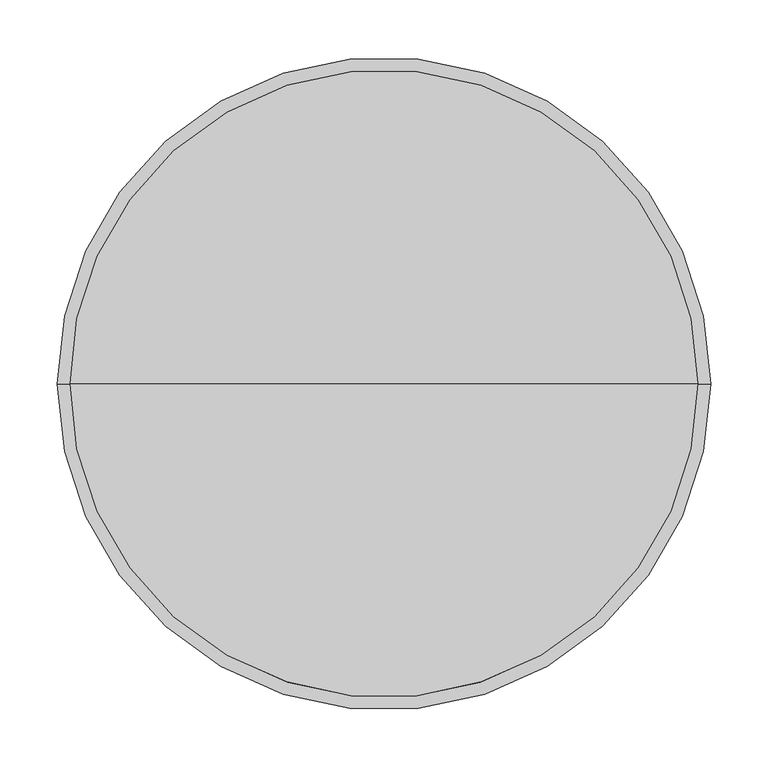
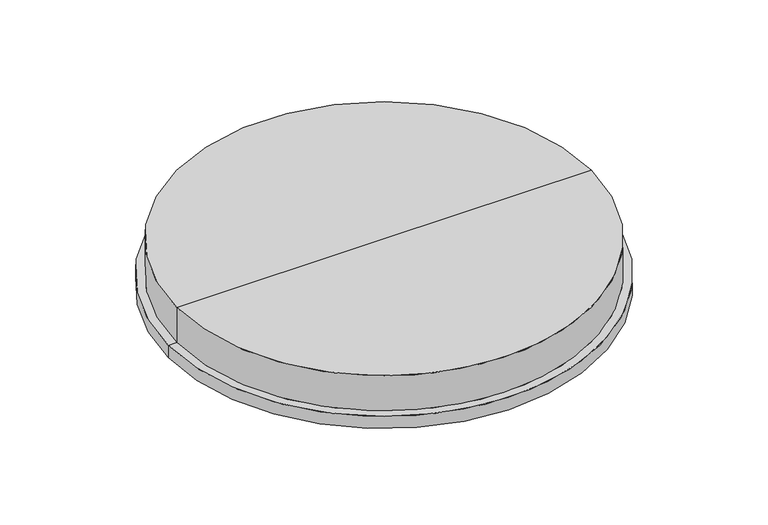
"""IFC4 building model written with IfcOpenShell, lengths in millimetres: valve geometry, Pipelife - Studnia PRO - Dno studni 630 : Dno studni."""

from ifc_helpers import new_model, si_unit, frame, origin, origin_with_axes, place, context, project, spatial, circle_curve, source, transform, mapped, element, save
from ifc_brep_helpers import plane_surface, cylinder_surface, advanced_brep


def valve_392ff049(model_context):
    return source(origin(), model_context, "Body", "AdvancedBrep", [
        advanced_brep(
        [(-284.0, 0.0, 17.0), (284.0, 0.0, 17.0), (284.0, 0.0, 0.0), (-284.0, 0.0, 0.0), (-273.0, 0.0, 17.0), (273.0, 0.0, 17.0), (-273.0, 0.0, 66.0), (273.0, 0.0, 66.0), (0.0, 0.0, 66.0), (0.0, 0.0, 0.0)],
        [
            (0, 1, circle_curve(frame((0.0, 0.0, 17.0), z_axis=(0.0, 0.0, -1.0), x_axis=(1.0, 0.0, 0.0)), 284.0)),
            (1, 2),
            (2, 3, circle_curve(origin_with_axes(), 284.0)),
            (3, 0),
            (1, 0, circle_curve(frame((0.0, 0.0, 17.0), z_axis=(0.0, 0.0, -1.0), x_axis=(1.0, 0.0, 0.0)), 284.0)),
            (3, 2, circle_curve(origin_with_axes(), 284.0)),
            (4, 5, circle_curve(frame((0.0, 0.0, 17.0), z_axis=(0.0, 0.0, -1.0), x_axis=(1.0, 0.0, 0.0)), 273.0)),
            (5, 1),
            (0, 4),
            (5, 4, circle_curve(frame((0.0, 0.0, 17.0), z_axis=(0.0, 0.0, -1.0), x_axis=(1.0, 0.0, 0.0)), 273.0)),
            (6, 7, circle_curve(frame((0.0, 0.0, 66.0), z_axis=(0.0, 0.0, -1.0), x_axis=(1.0, 0.0, 0.0)), 273.0)),
            (7, 5),
            (4, 6),
            (7, 6, circle_curve(frame((0.0, 0.0, 66.0), z_axis=(0.0, 0.0, -1.0), x_axis=(1.0, 0.0, 0.0)), 273.0)),
            (8, 7),
            (6, 8),
            (2, 9),
            (9, 3),
        ],
        [
            cylinder_surface(frame((0.0, 0.0, 141.0), z_axis=(0.0, 0.0, 1.0), x_axis=(1.0, 0.0, 0.0)), 284.0),
            plane_surface(frame((0.0, 0.0, 17.0), z_axis=(0.0, 0.0, 1.0), x_axis=(1.0, 0.0, 0.0))),
            cylinder_surface(frame((0.0, 0.0, 141.0), z_axis=(0.0, 0.0, 1.0), x_axis=(1.0, 0.0, 0.0)), 273.0),
            plane_surface(frame((0.0, 0.0, 66.0), z_axis=(0.0, 0.0, 1.0), x_axis=(1.0, 0.0, 0.0))),
            plane_surface(frame((0.0, 0.0, 0.0), z_axis=(0.0, 0.0, -1.0), x_axis=(1.0, 0.0, 0.0))),
        ],
        [
            (0, [[1, 2, 3, 4]]),
            (0, [[5, -4, 6, -2]]),
            (1, [[7, 8, -1, 9]]),
            (1, [[10, -9, -5, -8]]),
            (2, [[11, 12, -7, 13]]),
            (2, [[14, -13, -10, -12]]),
            (3, [[15, -11, 16]]),
            (3, [[-16, -14, -15]]),
            (4, [[-3, 17, 18]]),
            (4, [[-6, -18, -17]]),
        ],
    ),
    ])


if __name__ == "__main__":
    model = new_model("IFC4")
    model_context = context("Model", 3, world=origin())
    ifc_project = project(units=[si_unit("LENGTHUNIT", "METRE", prefix="MILLI")], contexts=[model_context])
    site = spatial("IfcSite", under=ifc_project)
    building = spatial("IfcBuilding", under=site)
    placement = place(None, origin())
    valve_shape = valve_392ff049(model_context)
    element("IfcValve", 1, ObjectType="Pipelife - Studnia PRO - Dno studni 630 : Dno studni", at=placement, inside=building, context=model_context, shape_type="MappedRepresentation", body=[
        mapped(valve_shape, transform((0.0, 0.0, 0.0), x_axis=(1.0, 0.0, 0.0), y_axis=(0.0, 1.0, 0.0), z_axis=(0.0, 0.0, 1.0))),
    ])
    save(model, "model.ifc")
